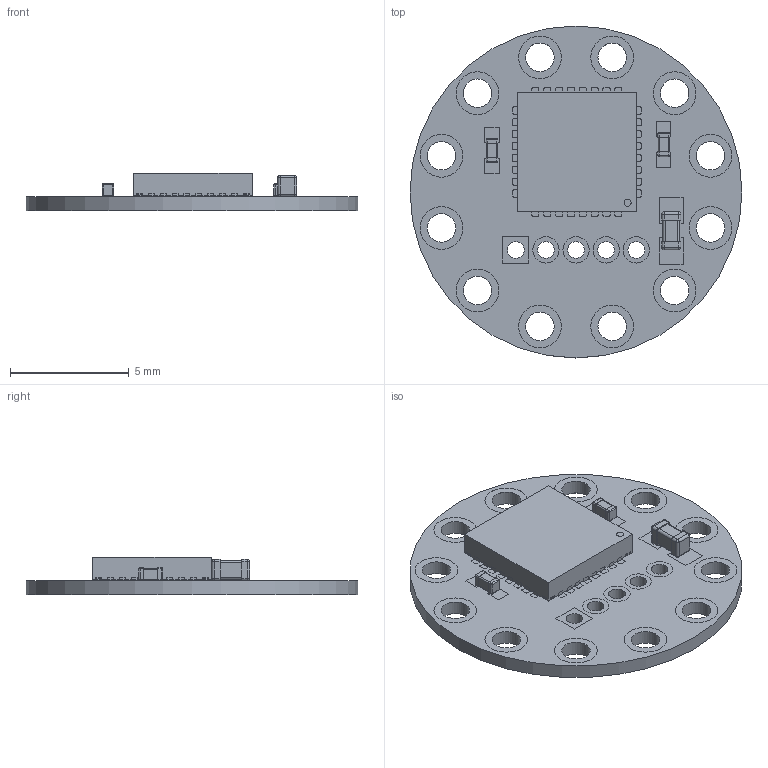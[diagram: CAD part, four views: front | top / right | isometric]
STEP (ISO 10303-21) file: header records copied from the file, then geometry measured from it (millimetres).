
FILE_DESCRIPTION(('FreeCAD Model'),'2;1');
FILE_NAME('/home/devy/MEGA/TinyCircuits/Assets/BoardsANDBoardModels_2/Processors/TinyCircuits-TinyLily_Mini-ASM2101/cad/Tinylily_mini_AST2101_REV4-STEP.step','2020-08-19T13:23:14',('Author'),(''), 'Open CASCADE STEP processor 7.4','FreeCAD','Unknown');
FILE_SCHEMA(('AUTOMOTIVE_DESIGN { 1 0 10303 214 1 1 1 1 }'));
Products named in the file (1): Tinylily_mini_AST2101_REV4-STEP
Bounding box: 14 x 14 x 1.6 mm (x, y, z)
Volume: 109.1 mm3; surface area: 603.3 mm2
Topology: 132 solids, 132 shells, 1206 faces, 8100 edges, 12472 vertices
Faces by surface type: plane 864, cylinder 318, sphere 24
Full cylindrical faces by diameter (mm): 0.702 x15, 1.106 x8, 1.202 x36, 1.803 x24, 14 x1
Entity records: 148320 total; most frequent: CARTESIAN_POINT 28199, DIRECTION 16846, LINE 11592, VECTOR 11592, ORIENTED_EDGE 5448, PCURVE 5448, DEFINITIONAL_REPRESENTATION 5448, GEOMETRIC_CURVE_SET 5352
